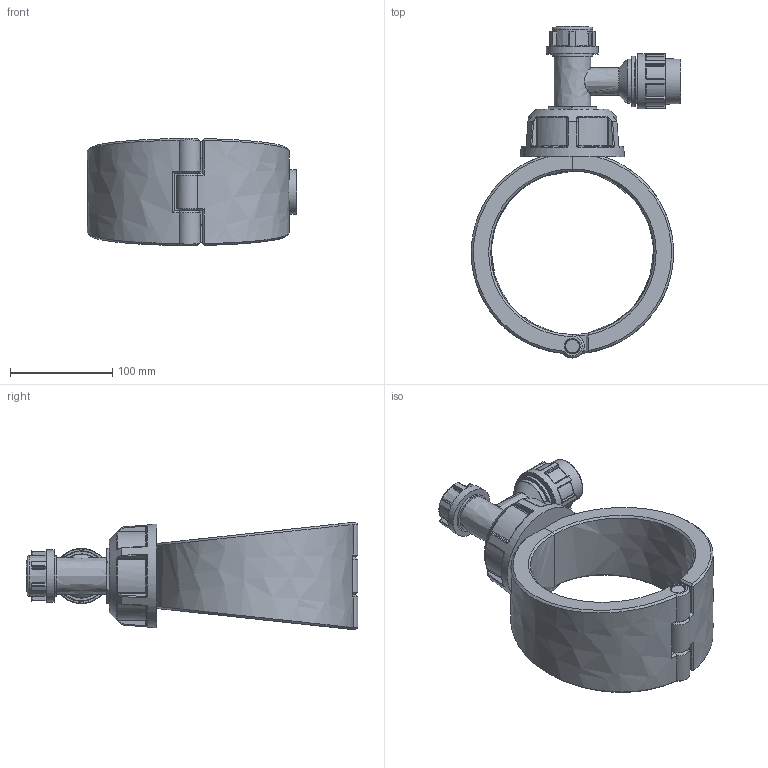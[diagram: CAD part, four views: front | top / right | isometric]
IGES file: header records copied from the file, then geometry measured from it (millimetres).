
Global section: file name: 163100180025_1631061800250A; native system: Autodesk Inventor 2019; preprocessor: unknown; author: comp2; date: 20220203.115841; units: millimetre
Bounding box: 204.99 x 325 x 105.57 mm (x, y, z)
Volume: 1379884.2 mm3; surface area: 185730.9 mm2
Topology: 4 solids, 4 shells, 519 faces, 1253 edges, 754 vertices
Faces by surface type: bspline 519
